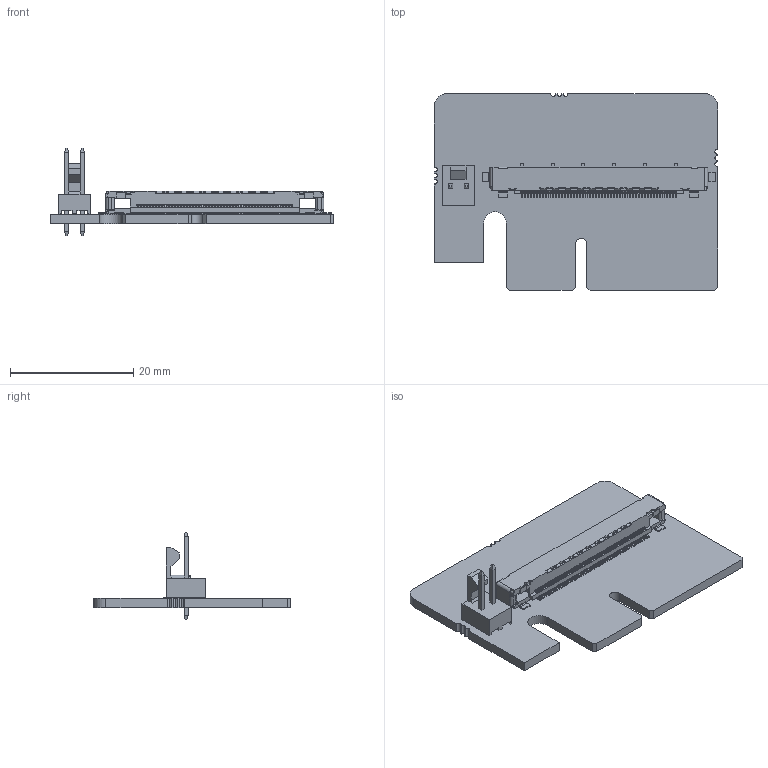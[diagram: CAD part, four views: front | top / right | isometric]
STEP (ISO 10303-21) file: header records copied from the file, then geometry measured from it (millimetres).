
FILE_DESCRIPTION(/* description */ ('step model'),/* implementation_level */ '2;1');
FILE_NAME(/* name */ 'ADPT-MX-X4G2-PCIE-FL.stp',/* time_stamp */ '2017-09-04T14:38:02+02:00',/* author */ ('Spano'),/* organization */ ('Ximea'),/* preprocessor_version */ 'ST-DEVELOPER v16',/* originating_system */ 'SIEMENS PLM Software NX 11.0',/* authorisation */ '');
FILE_SCHEMA (('AUTOMOTIVE_DESIGN { 1 0 10303 214 3 1 1 1 }'));
Length unit declared in the file: millimetre
Products named in the file (1): ADPT-MX-X4G2-PCIE-FL
Bounding box: 45.95 x 31.93 x 14.22 mm (x, y, z)
Volume: 2692.7 mm3; surface area: 4145.1 mm2
Topology: 5 solids, 5 shells, 1548 faces, 4355 edges, 2850 vertices
Faces by surface type: plane 1222, cylinder 326
Entity records: 49873 total; most frequent: CARTESIAN_POINT 9072, ORIENTED_EDGE 8710, DIRECTION 8125, EDGE_CURVE 4355, LINE 3551, VECTOR 3551, VERTEX_POINT 2850, AXIS2_PLACEMENT_3D 2287
